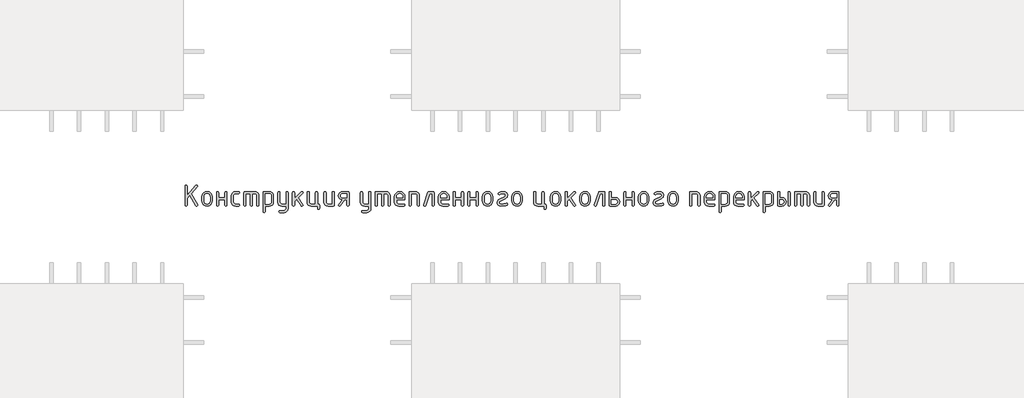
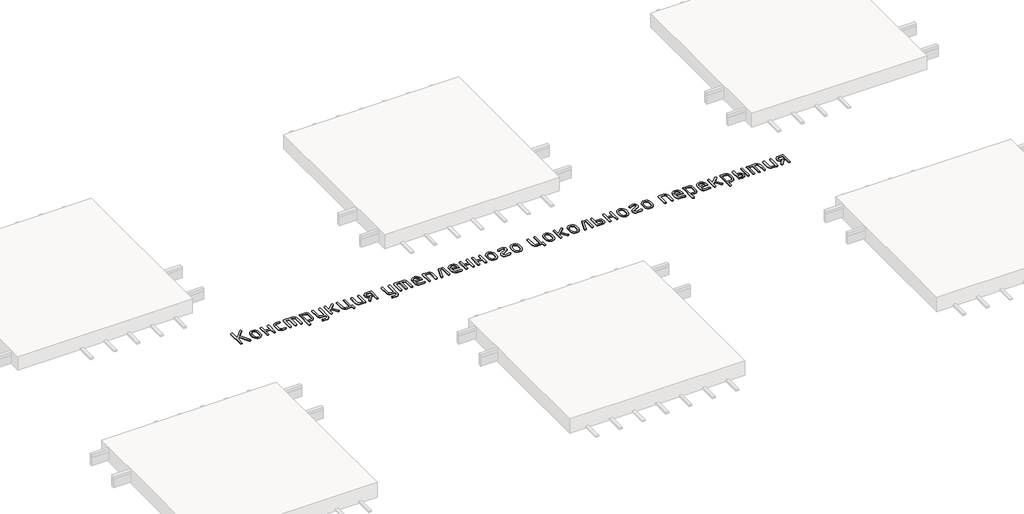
# One storey, part 41 of 42: 1 proxy.
"""IFC4 building model written with IfcOpenShell, lengths in millimetres."""

from ifc_helpers import new_model, si_unit, origin, origin_with_axes, place, context, project, spatial, polyline, outline, extrude, element, save

model = new_model("IFC4")

# Units and contexts
model_context = context("Model", 3, world=origin())
ifc_project = project(units=[si_unit("LENGTHUNIT", "METRE", prefix="MILLI")], contexts=[model_context])

# Site, building, storey
site = spatial("IfcSite", under=ifc_project)
building = spatial("IfcBuilding", under=site)
storey = spatial("IfcBuildingStorey", under=building, Name="Этаж 01", Elevation=0.0)

# Proxy
placement = place(None, origin())
element("IfcBuildingElementProxy", 1, Name="300 мм GOST Common", ObjectType="300 мм GOST Common", at=placement, inside=storey, context=model_context, shape_type="SweptSolid", body=[
    extrude(outline(polyline([(56113.6180624, -33149.8028226), (56074.3967756, -33193.2206257), (56074.3967756, -33293.8563142), (56070.5230683, -33305.2958562), (56058.9019463, -33309.1090368), (56047.2808243, -33305.2958562), (56043.4071169, -33293.8563142), (56043.4071169, -33019.6301156), (56047.2808243, -33008.1905736), (56058.9019463, -33004.377393), (56070.5230683, -33008.1905736), (56074.3967756, -33019.6301156), (56074.3967756, -33147.7045644), (56199.243135, -33009.4616338), (56210.7835548, -33004.377393), (56222.1020434, -33008.1905736), (56225.874873, -33019.6301156), (56221.7590589, -33030.0407041), (56135.2462617, -33125.8342584), (56223.8573171, -33286.270304), (56225.874873, -33293.8563142), (56221.1941433, -33304.387956), (56210.7835548, -33309.1090368), (56202.7940334, -33307.0914809), (56197.2255791, -33301.0388132), (56113.6180624, -33149.8028226)])), origin_with_axes(), (0.0, 0.0, 1.0), 10.0),
    extrude(outline(polyline([(56286.1594434, -33233.4910415), (56286.1594434, -33172.9643644), (56291.6371077, -33143.8913838), (56308.0701005, -33119.4587818), (56332.2706836, -33102.8744722), (56361.0511186, -33097.3463691), (56390.134187, -33102.8139456), (56414.2742434, -33119.2166751), (56430.5256562, -33143.5887504), (56435.9427938, -33172.9643644), (56435.9427938, -33233.4910415), (56430.4651295, -33262.5640221), (56414.0321367, -33286.9966241), (56389.8315536, -33303.5809337), (56361.0511186, -33309.1090368), (56332.2706836, -33303.5809337), (56308.0701005, -33286.9966241), (56291.6371077, -33262.5640221), (56286.1594434, -33233.4910415)]), holes=[polyline([(56404.9531351, -33232.6033169), (56404.9531351, -33171.9959375), (56401.7351334, -33154.5642545), (56392.0811284, -33139.8764475), (56377.8876226, -33129.8895458), (56361.0511186, -33126.5605786), (56344.2146146, -33129.8895458), (56330.0211088, -33139.8764475), (56320.3671038, -33154.5642545), (56317.1491021, -33171.9959375), (56317.1491021, -33232.6033169), (56320.3368404, -33250.1964044), (56329.9000554, -33264.8842114), (56344.0632979, -33274.8105865), (56361.0511186, -33278.1193781), (56377.8876226, -33274.7904109), (56392.0811284, -33264.8035092), (56401.7351334, -33250.0955266), (56404.9531351, -33232.6033169)])]), origin_with_axes(), (0.0, 0.0, 1.0), 10.0),
    extrude(outline(polyline([(56528.9117699, -33216.1400607), (56528.9117699, -33293.6142075), (56525.0380625, -33305.2353295), (56513.4169405, -33309.1090368), (56501.7958185, -33305.3362073), (56497.9221112, -33294.0177187), (56497.9221112, -33112.4376872), (56501.7958185, -33101.1191986), (56513.4169405, -33097.3463691), (56525.0380625, -33100.9981452), (56528.9117699, -33111.9534738), (56528.9117699, -33185.150402), (56616.7158029, -33185.150402), (56616.7158029, -33111.9534738), (56620.5895102, -33100.9981452), (56632.2106322, -33097.3463691), (56643.8317542, -33101.1191986), (56647.7054616, -33112.4376872), (56647.7054616, -33294.0177187), (56643.8317542, -33305.3362073), (56632.2106322, -33309.1090368), (56620.5895102, -33305.2353295), (56616.7158029, -33293.6142075), (56616.7158029, -33216.1400607), (56528.9117699, -33216.1400607)])), origin_with_axes(), (0.0, 0.0, 1.0), 10.0),
    extrude(outline(polyline([(56740.6744377, -33158.2765574), (56740.6744377, -33248.1788485), (56742.9139247, -33259.5881272), (56749.6323859, -33269.2824833), (56759.4377076, -33275.9101544), (56770.9377762, -33278.1193781), (56816.4538374, -33278.1193781), (56827.7723261, -33281.9930855), (56831.5451556, -33293.6142075), (56827.7723261, -33305.2353295), (56816.4538374, -33309.1090368), (56770.9377762, -33309.1090368), (56747.3928988, -33304.7309405), (56727.6006754, -33291.5966516), (56714.1637531, -33272.086886), (56709.684779, -33248.5823597), (56709.684779, -33157.8730462), (56714.1637531, -33134.3685199), (56727.6006754, -33114.8587543), (56747.3928988, -33101.7244654), (56770.9377762, -33097.3463691), (56816.4538374, -33097.3463691), (56827.7723261, -33101.2200764), (56831.5451556, -33112.8411984), (56827.7723261, -33124.4623204), (56816.4538374, -33128.3360278), (56770.9377762, -33128.3360278), (56759.2863909, -33130.5250759), (56749.5113325, -33137.0922204), (56742.8836614, -33146.766401), (56740.6744377, -33158.2765574)])), origin_with_axes(), (0.0, 0.0, 1.0), 10.0),
    extrude(outline(polyline([(56905.9526174, -33097.3463691), (57045.4060815, -33097.3463691), (57069.2939434, -33101.7547287), (57089.308098, -33114.9798077), (57102.8660737, -33134.5198366), (57107.3853989, -33157.8730462), (57107.3853989, -33294.0177187), (57103.5116916, -33305.3362073), (57091.8905696, -33309.1090368), (57080.2694476, -33305.3362073), (57076.3957402, -33294.0177187), (57076.3957402, -33158.4379619), (57074.166341, -33146.7058743), (57067.4781431, -33137.0115182), (57057.5013292, -33130.5049004), (57045.4060815, -33128.3360278), (57014.4164228, -33128.3360278), (57014.4164228, -33294.0177187), (57010.5427155, -33305.3362073), (56998.9215935, -33309.1090368), (56987.3004715, -33305.3362073), (56983.4267641, -33294.0177187), (56983.4267641, -33128.3360278), (56921.4474467, -33128.3360278), (56921.4474467, -33294.0177187), (56917.5737394, -33305.3362073), (56905.9526174, -33309.1090368), (56894.3314954, -33305.3362073), (56890.457788, -33294.0177187), (56890.457788, -33112.4376872), (56894.3314954, -33101.1191986), (56905.9526174, -33097.3463691)])), origin_with_axes(), (0.0, 0.0, 1.0), 10.0),
    extrude(outline(polyline([(57169.3647163, -33112.5990917), (57173.1173703, -33101.1595497), (57184.3753323, -33097.3463691), (57259.2670075, -33097.3463691), (57282.4890759, -33101.7244654), (57301.7970859, -33114.8587543), (57314.8103215, -33134.3685199), (57319.1480667, -33157.8730462), (57319.1480667, -33248.5823597), (57314.8405849, -33271.9355693), (57301.9181393, -33291.4755982), (57282.761446, -33304.7006772), (57259.7512209, -33309.1090368), (57200.354375, -33309.1090368), (57200.354375, -33386.5831836), (57196.4806677, -33398.2043056), (57184.8595457, -33402.0780129), (57173.2384237, -33398.2648323), (57169.3647163, -33386.8252903), (57169.3647163, -33112.5990917)]), holes=[polyline([(57200.354375, -33128.3360278), (57200.354375, -33278.1193781), (57258.8634963, -33278.1193781), (57270.1416338, -33275.93033), (57279.603971, -33269.3631855), (57286.0197988, -33259.6890049), (57288.158408, -33248.1788485), (57288.158408, -33158.2765574), (57286.0500621, -33146.6150843), (57279.7250243, -33136.971167), (57270.2929505, -33130.4948126), (57258.8634963, -33128.3360278), (57200.354375, -33128.3360278)])]), origin_with_axes(), (0.0, 0.0, 1.0), 10.0),
    extrude(outline(polyline([(57499.9210758, -33340.582909), (57499.9210758, -33309.1090368), (57440.5242299, -33309.1090368), (57417.5140049, -33304.7006772), (57398.3573115, -33291.4755982), (57385.434866, -33271.9355693), (57381.1273841, -33248.5823597), (57381.1273841, -33112.4376872), (57385.0010914, -33101.1191986), (57396.6222135, -33097.3463691), (57408.2433355, -33101.1191986), (57412.1170428, -33112.4376872), (57412.1170428, -33248.017444), (57414.2758276, -33259.4468982), (57420.7521821, -33269.201781), (57430.2346948, -33275.8899789), (57441.4119545, -33278.1193781), (57499.9210758, -33278.1193781), (57499.9210758, -33112.4376872), (57503.7947831, -33101.1191986), (57515.4159051, -33097.3463691), (57527.0370271, -33101.1595497), (57530.9107345, -33112.5990917), (57530.9107345, -33341.1478246), (57526.6637793, -33364.601912), (57513.9229138, -33384.2831699), (57494.9881516, -33397.6293022), (57472.1595065, -33402.0780129), (57412.1170428, -33402.0780129), (57400.7380275, -33398.2043056), (57396.9450224, -33386.5831836), (57401.5450499, -33375.7690839), (57412.1170428, -33371.0883542), (57470.626164, -33371.0883542), (57482.0556183, -33368.9194816), (57491.4876921, -33362.4128638), (57497.8127299, -33352.6176299), (57499.9210758, -33340.582909)])), origin_with_axes(), (0.0, 0.0, 1.0), 10.0),
    extrude(outline(polyline([(57623.8797106, -33196.7715241), (57719.1083493, -33101.7042898), (57729.9224489, -33097.3463691), (57741.3014642, -33101.1191986), (57745.0944693, -33112.4376872), (57740.4944419, -33123.0096802), (57673.915097, -33189.5083228), (57742.1084866, -33285.3018772), (57745.0944693, -33294.1791231), (57741.3014642, -33305.3765584), (57729.9224489, -33309.1090368), (57722.780301, -33307.4949921), (57717.3329001, -33302.6528579), (57652.1254933, -33211.0558199), (57623.8797106, -33239.3016025), (57623.8797106, -33293.9370164), (57620.0060032, -33305.3160317), (57608.3848812, -33309.1090368), (57596.7637592, -33305.3362073), (57592.8900519, -33294.0177187), (57592.8900519, -33112.4376872), (57596.7637592, -33101.1191986), (57608.3848812, -33097.3463691), (57620.0060032, -33101.1191986), (57623.8797106, -33112.4376872), (57623.8797106, -33196.7715241)])), origin_with_axes(), (0.0, 0.0, 1.0), 10.0),
    extrude(outline(polyline([(57969.9308994, -33278.1193781), (57981.5520214, -33281.9930855), (57985.4257287, -33293.6142075), (57985.4257287, -33340.0986955), (57981.5520214, -33351.7198175), (57969.9308994, -33355.5935249), (57958.3097774, -33351.7198175), (57954.43607, -33340.0986955), (57954.43607, -33309.1090368), (57864.5337789, -33309.1090368), (57841.3117105, -33304.7006772), (57822.0037004, -33291.4755982), (57808.9904649, -33271.9355693), (57804.6527197, -33248.5823597), (57804.6527197, -33112.4376872), (57808.526427, -33101.1191986), (57820.147549, -33097.3463691), (57831.768671, -33101.1191986), (57835.6423784, -33112.4376872), (57835.6423784, -33248.017444), (57837.8011632, -33259.4468982), (57844.2775176, -33269.201781), (57853.7600304, -33275.8899789), (57864.9372901, -33278.1193781), (57923.4464113, -33278.1193781), (57923.4464113, -33112.4376872), (57927.3201187, -33101.1191986), (57938.9412407, -33097.3463691), (57950.5623627, -33101.1191986), (57954.43607, -33112.4376872), (57954.43607, -33278.1193781), (57969.9308994, -33278.1193781)])), origin_with_axes(), (0.0, 0.0, 1.0), 10.0),
    extrude(outline(polyline([(58197.1883965, -33112.4376872), (58197.1883965, -33294.0177187), (58193.4357425, -33305.3362073), (58182.1777806, -33309.1090368), (58107.2861054, -33309.1090368), (58084.0640369, -33304.7309405), (58064.7560269, -33291.5966516), (58051.7427913, -33272.086886), (58047.4050461, -33248.5823597), (58047.4050461, -33112.4376872), (58051.2787535, -33101.1191986), (58062.8998755, -33097.3463691), (58074.5209975, -33101.1191986), (58078.3947048, -33112.4376872), (58078.3947048, -33248.017444), (58080.5534897, -33259.4468982), (58087.0298441, -33269.201781), (58096.5123569, -33275.8899789), (58107.6896166, -33278.1193781), (58166.1987378, -33278.1193781), (58166.1987378, -33112.4376872), (58170.0724452, -33101.1191986), (58181.6935672, -33097.3463691), (58193.3146892, -33101.1191986), (58197.1883965, -33112.4376872)])), origin_with_axes(), (0.0, 0.0, 1.0), 10.0),
    extrude(outline(polyline([(58310.7364428, -33217.9155099), (58289.360438, -33211.6106477), (58272.0397206, -33198.1838132), (58260.5699153, -33179.6122111), (58256.7466468, -33157.8730462), (58261.1449187, -33134.3685199), (58274.3397343, -33114.8587543), (58293.889851, -33101.7244654), (58317.3540262, -33097.3463691), (58393.4562349, -33097.3463691), (58405.077357, -33101.1191986), (58408.9510643, -33112.4376872), (58408.9510643, -33294.0177187), (58405.077357, -33305.3362073), (58393.4562349, -33309.1090368), (58381.8351129, -33305.3160317), (58377.9614056, -33293.9370164), (58377.9614056, -33218.2383189), (58347.2138536, -33218.2383189), (58284.1047049, -33302.8949647), (58278.7581817, -33307.5555188), (58271.9186672, -33309.1090368), (58260.5396519, -33305.3362073), (58256.7466468, -33294.0177187), (58259.7326296, -33284.8176637), (58310.7364428, -33217.9155099)]), holes=[polyline([(58287.0906876, -33158.6800686), (58289.3301747, -33170.1801372), (58296.0486359, -33179.9854589), (58305.8539576, -33186.7039201), (58317.3540262, -33188.9434071), (58377.9614056, -33188.9434071), (58377.9614056, -33128.3360278), (58317.3540262, -33128.3360278), (58305.7026409, -33130.5452515), (58295.9275825, -33137.1729226), (58289.2999114, -33146.9681565), (58287.0906876, -33158.6800686)])]), origin_with_axes(), (0.0, 0.0, 1.0), 10.0),
    extrude(outline(polyline([(58693.0229357, -33340.582909), (58693.0229357, -33309.1090368), (58633.6260899, -33309.1090368), (58610.6158648, -33304.7006772), (58591.4591714, -33291.4755982), (58578.5367259, -33271.9355693), (58574.229244, -33248.5823597), (58574.229244, -33112.4376872), (58578.1029514, -33101.1191986), (58589.7240734, -33097.3463691), (58601.3451954, -33101.1191986), (58605.2189027, -33112.4376872), (58605.2189027, -33248.017444), (58607.3776875, -33259.4468982), (58613.854042, -33269.201781), (58623.3365547, -33275.8899789), (58634.5138145, -33278.1193781), (58693.0229357, -33278.1193781), (58693.0229357, -33112.4376872), (58696.896643, -33101.1191986), (58708.517765, -33097.3463691), (58720.1388871, -33101.1595497), (58724.0125944, -33112.5990917), (58724.0125944, -33341.1478246), (58719.7656392, -33364.601912), (58707.0247737, -33384.2831699), (58688.0900115, -33397.6293022), (58665.2613664, -33402.0780129), (58605.2189027, -33402.0780129), (58593.8398874, -33398.2043056), (58590.0468823, -33386.5831836), (58594.6469098, -33375.7690839), (58605.2189027, -33371.0883542), (58663.728024, -33371.0883542), (58675.1574782, -33368.9194816), (58684.589552, -33362.4128638), (58690.9145898, -33352.6176299), (58693.0229357, -33340.582909)])), origin_with_axes(), (0.0, 0.0, 1.0), 10.0),
    extrude(outline(polyline([(58801.4867411, -33097.3463691), (58940.9402053, -33097.3463691), (58964.8280672, -33101.7547287), (58984.8422218, -33114.9798077), (58998.4001975, -33134.5198366), (59002.9195227, -33157.8730462), (59002.9195227, -33294.0177187), (58999.0458154, -33305.3362073), (58987.4246933, -33309.1090368), (58975.8035713, -33305.3362073), (58971.929864, -33294.0177187), (58971.929864, -33158.4379619), (58969.7004647, -33146.7058743), (58963.0122669, -33137.0115182), (58953.0354529, -33130.5049004), (58940.9402053, -33128.3360278), (58909.9505466, -33128.3360278), (58909.9505466, -33294.0177187), (58906.0768393, -33305.3362073), (58894.4557172, -33309.1090368), (58882.8345952, -33305.3362073), (58878.9608879, -33294.0177187), (58878.9608879, -33128.3360278), (58816.9815705, -33128.3360278), (58816.9815705, -33294.0177187), (58813.1078632, -33305.3362073), (58801.4867411, -33309.1090368), (58789.8656191, -33305.3362073), (58785.9919118, -33294.0177187), (58785.9919118, -33112.4376872), (58789.8656191, -33101.1191986), (58801.4867411, -33097.3463691)])), origin_with_axes(), (0.0, 0.0, 1.0), 10.0),
    extrude(outline(polyline([(59095.8884988, -33216.1400607), (59095.8884988, -33247.1297194), (59098.1279858, -33258.9223337), (59104.846447, -33268.9596743), (59114.6517687, -33275.8294522), (59126.1518374, -33278.1193781), (59201.9312371, -33278.1193781), (59213.3102525, -33281.9930855), (59217.1032576, -33293.6142075), (59213.3102525, -33305.2353295), (59201.9312371, -33309.1090368), (59126.1518374, -33309.1090368), (59102.6069599, -33304.7309405), (59082.8147365, -33291.5966516), (59069.3778142, -33272.086886), (59064.8988401, -33248.5823597), (59064.8988401, -33172.9643644), (59070.5177333, -33143.8913838), (59087.3744129, -33119.4587818), (59112.0995605, -33102.8744722), (59141.3238578, -33097.3463691), (59170.7700862, -33102.7130678), (59195.1926004, -33118.8131639), (59211.6255933, -33142.7413769), (59217.1032576, -33171.5924264), (59217.1032576, -33216.1400607), (59095.8884988, -33216.1400607)]), holes=[polyline([(59141.3238578, -33124.5430227), (59123.8921747, -33127.8719899), (59109.2043678, -33137.8588916), (59099.217466, -33152.5466986), (59095.8884988, -33169.9783816), (59095.8884988, -33185.150402), (59186.7592167, -33185.150402), (59186.7592167, -33169.9783816), (59183.4302495, -33152.5466986), (59173.4433478, -33137.8588916), (59158.7555408, -33127.8719899), (59141.3238578, -33124.5430227)])]), origin_with_axes(), (0.0, 0.0, 1.0), 10.0),
    extrude(outline(polyline([(59276.6615079, -33294.0177187), (59276.6615079, -33112.4376872), (59280.4141618, -33101.1191986), (59291.6721238, -33097.3463691), (59366.563799, -33097.3463691), (59389.6345508, -33101.7547287), (59408.9728241, -33114.9798077), (59422.0768497, -33134.5198366), (59426.4448582, -33157.8730462), (59426.4448582, -33294.0177187), (59422.5711509, -33305.3362073), (59410.9500289, -33309.1090368), (59399.3289069, -33305.3362073), (59395.4551995, -33294.0177187), (59395.4551995, -33158.4379619), (59393.3468536, -33146.7058743), (59387.0218159, -33137.0115182), (59377.589742, -33130.5049004), (59366.1602878, -33128.3360278), (59307.6511666, -33128.3360278), (59307.6511666, -33294.0177187), (59303.7774592, -33305.3362073), (59292.1563372, -33309.1090368), (59280.5352152, -33305.3362073), (59276.6615079, -33294.0177187)])), origin_with_axes(), (0.0, 0.0, 1.0), 10.0),
    extrude(outline(polyline([(59561.7825083, -33097.3463691), (59622.7126967, -33097.3463691), (59634.3338187, -33101.1191986), (59638.207526, -33112.4376872), (59638.207526, -33294.0177187), (59634.3338187, -33305.3362073), (59622.7126967, -33309.1090368), (59611.0915747, -33305.3362073), (59607.2178673, -33294.0177187), (59607.2178673, -33128.3360278), (59572.596608, -33128.3360278), (59515.4594248, -33298.8598528), (59510.1532527, -33306.5467408), (59501.175129, -33309.1090368), (59489.7961137, -33305.2756806), (59486.0031086, -33293.775612), (59486.7294287, -33289.1755845), (59546.6104879, -33109.6938112), (59552.5017512, -33100.4332296), (59561.7825083, -33097.3463691)])), origin_with_axes(), (0.0, 0.0, 1.0), 10.0),
    extrude(outline(polyline([(59731.1765021, -33216.1400607), (59731.1765021, -33247.1297194), (59733.4159892, -33258.9223337), (59740.1344503, -33268.9596743), (59749.939772, -33275.8294522), (59761.4398407, -33278.1193781), (59837.2192405, -33278.1193781), (59848.5982558, -33281.9930855), (59852.3912609, -33293.6142075), (59848.5982558, -33305.2353295), (59837.2192405, -33309.1090368), (59761.4398407, -33309.1090368), (59737.8949633, -33304.7309405), (59718.1027399, -33291.5966516), (59704.6658175, -33272.086886), (59700.1868434, -33248.5823597), (59700.1868434, -33172.9643644), (59705.8057366, -33143.8913838), (59722.6624162, -33119.4587818), (59747.3875638, -33102.8744722), (59776.6118611, -33097.3463691), (59806.0580895, -33102.7130678), (59830.4806038, -33118.8131639), (59846.9135966, -33142.7413769), (59852.3912609, -33171.5924264), (59852.3912609, -33216.1400607), (59731.1765021, -33216.1400607)]), holes=[polyline([(59776.6118611, -33124.5430227), (59759.1801781, -33127.8719899), (59744.4923711, -33137.8588916), (59734.5054694, -33152.5466986), (59731.1765021, -33169.9783816), (59731.1765021, -33185.150402), (59822.0472201, -33185.150402), (59822.0472201, -33169.9783816), (59818.7182528, -33152.5466986), (59808.7313511, -33137.8588916), (59794.0435441, -33127.8719899), (59776.6118611, -33124.5430227)])]), origin_with_axes(), (0.0, 0.0, 1.0), 10.0),
    extrude(outline(polyline([(59942.9391699, -33216.1400607), (59942.9391699, -33293.6142075), (59939.0654626, -33305.2353295), (59927.4443405, -33309.1090368), (59915.8232185, -33305.3362073), (59911.9495112, -33294.0177187), (59911.9495112, -33112.4376872), (59915.8232185, -33101.1191986), (59927.4443405, -33097.3463691), (59939.0654626, -33100.9981452), (59942.9391699, -33111.9534738), (59942.9391699, -33185.150402), (60030.7432029, -33185.150402), (60030.7432029, -33111.9534738), (60034.6169102, -33100.9981452), (60046.2380322, -33097.3463691), (60057.8591542, -33101.1191986), (60061.7328616, -33112.4376872), (60061.7328616, -33294.0177187), (60057.8591542, -33305.3362073), (60046.2380322, -33309.1090368), (60034.6169102, -33305.2353295), (60030.7432029, -33293.6142075), (60030.7432029, -33216.1400607), (59942.9391699, -33216.1400607)])), origin_with_axes(), (0.0, 0.0, 1.0), 10.0),
    extrude(outline(polyline([(60154.7018377, -33216.1400607), (60154.7018377, -33293.6142075), (60150.8281303, -33305.2353295), (60139.2070083, -33309.1090368), (60127.5858863, -33305.3362073), (60123.712179, -33294.0177187), (60123.712179, -33112.4376872), (60127.5858863, -33101.1191986), (60139.2070083, -33097.3463691), (60150.8281303, -33100.9981452), (60154.7018377, -33111.9534738), (60154.7018377, -33185.150402), (60242.5058706, -33185.150402), (60242.5058706, -33111.9534738), (60246.379578, -33100.9981452), (60258.0007, -33097.3463691), (60269.621822, -33101.1191986), (60273.4955293, -33112.4376872), (60273.4955293, -33294.0177187), (60269.621822, -33305.3362073), (60258.0007, -33309.1090368), (60246.379578, -33305.2353295), (60242.5058706, -33293.6142075), (60242.5058706, -33216.1400607), (60154.7018377, -33216.1400607)])), origin_with_axes(), (0.0, 0.0, 1.0), 10.0),
    extrude(outline(polyline([(60335.4748467, -33233.4910415), (60335.4748467, -33172.9643644), (60340.952511, -33143.8913838), (60357.3855039, -33119.4587818), (60381.586087, -33102.8744722), (60410.3665219, -33097.3463691), (60439.4495903, -33102.8139456), (60463.5896467, -33119.2166751), (60479.8410595, -33143.5887504), (60485.2581971, -33172.9643644), (60485.2581971, -33233.4910415), (60479.7805328, -33262.5640221), (60463.34754, -33286.9966241), (60439.1469569, -33303.5809337), (60410.3665219, -33309.1090368), (60381.586087, -33303.5809337), (60357.3855039, -33286.9966241), (60340.952511, -33262.5640221), (60335.4748467, -33233.4910415)]), holes=[polyline([(60454.2685384, -33232.6033169), (60454.2685384, -33171.9959375), (60451.0505368, -33154.5642545), (60441.3965318, -33139.8764475), (60427.203026, -33129.8895458), (60410.3665219, -33126.5605786), (60393.5300179, -33129.8895458), (60379.3365121, -33139.8764475), (60369.6825071, -33154.5642545), (60366.4645054, -33171.9959375), (60366.4645054, -33232.6033169), (60369.6522438, -33250.1964044), (60379.2154588, -33264.8842114), (60393.3787012, -33274.8105865), (60410.3665219, -33278.1193781), (60427.203026, -33274.7904109), (60441.3965318, -33264.8035092), (60451.0505368, -33250.0955266), (60454.2685384, -33232.6033169)])]), origin_with_axes(), (0.0, 0.0, 1.0), 10.0),
    extrude(outline(polyline([(60682.8979736, -33262.9473577), (60694.2769889, -33266.7403628), (60698.069994, -33278.1193781), (60695.9515603, -33286.0685484), (60689.5962592, -33292.0001628), (60673.0169935, -33299.4852952), (60652.4934061, -33304.8318183), (60599.6132658, -33309.1090368), (60579.1552489, -33305.2555051), (60562.0060237, -33293.6949097), (60550.3849017, -33276.6667379), (60546.5111944, -33256.4104766), (60548.4076969, -33241.0215689), (60554.0972046, -33227.9427628), (60563.5797174, -33217.1740581), (60576.8552352, -33208.715455), (60655.378511, -33171.0275107), (60664.6390926, -33163.0178138), (60667.7259532, -33150.9326539), (60666.0614695, -33142.2571635), (60661.0680187, -33134.9536111), (60653.734203, -33129.9904236), (60645.0486248, -33128.3360278), (60606.7150626, -33131.5641172), (60583.957032, -33141.6518967), (60576.8552352, -33143.5080482), (60566.2832423, -33138.9080207), (60561.6832148, -33128.3360278), (60563.7007707, -33120.6894909), (60569.7534384, -33114.6973498), (60601.893104, -33101.6841143), (60645.0486248, -33097.3463691), (60665.446115, -33101.1999008), (60682.5751646, -33112.7604962), (60694.1962866, -33129.788668), (60698.069994, -33150.0449293), (60696.1583598, -33165.433837), (60690.4234571, -33178.5126431), (60680.865286, -33189.2813478), (60667.4838465, -33197.7399509), (60589.6868908, -33234.9436818), (60580.0631491, -33243.1954854), (60576.8552352, -33255.522752), (60578.5197188, -33264.1982424), (60583.5131697, -33271.5017948), (60590.867161, -33276.4649823), (60599.6132658, -33278.1193781), (60641.1547419, -33274.6088309), (60677.1681148, -33264.077189), (60682.8979736, -33262.9473577)])), origin_with_axes(), (0.0, 0.0, 1.0), 10.0),
    extrude(outline(polyline([(60759.0001823, -33233.4910415), (60759.0001823, -33172.9643644), (60764.4778466, -33143.8913838), (60780.9108394, -33119.4587818), (60805.1114225, -33102.8744722), (60833.8918575, -33097.3463691), (60862.9749259, -33102.8139456), (60887.1149823, -33119.2166751), (60903.3663951, -33143.5887504), (60908.7835327, -33172.9643644), (60908.7835327, -33233.4910415), (60903.3058684, -33262.5640221), (60886.8728756, -33286.9966241), (60862.6722925, -33303.5809337), (60833.8918575, -33309.1090368), (60805.1114225, -33303.5809337), (60780.9108394, -33286.9966241), (60764.4778466, -33262.5640221), (60759.0001823, -33233.4910415)]), holes=[polyline([(60877.793874, -33232.6033169), (60877.793874, -33171.9959375), (60874.5758723, -33154.5642545), (60864.9218673, -33139.8764475), (60850.7283615, -33129.8895458), (60833.8918575, -33126.5605786), (60817.0553535, -33129.8895458), (60802.8618477, -33139.8764475), (60793.2078427, -33154.5642545), (60789.989841, -33171.9959375), (60789.989841, -33232.6033169), (60793.1775793, -33250.1964044), (60802.7407943, -33264.8842114), (60816.9040368, -33274.8105865), (60833.8918575, -33278.1193781), (60850.7283615, -33274.7904109), (60864.9218673, -33264.8035092), (60874.5758723, -33250.0955266), (60877.793874, -33232.6033169)])]), origin_with_axes(), (0.0, 0.0, 1.0), 10.0),
    extrude(outline(polyline([(61239.3398921, -33278.1193781), (61250.9610141, -33281.9930855), (61254.8347215, -33293.6142075), (61254.8347215, -33340.0986955), (61250.9610141, -33351.7198175), (61239.3398921, -33355.5935249), (61227.7187701, -33351.7198175), (61223.8450628, -33340.0986955), (61223.8450628, -33309.1090368), (61133.9427717, -33309.1090368), (61110.7207032, -33304.7006772), (61091.4126932, -33291.4755982), (61078.3994576, -33271.9355693), (61074.0617124, -33248.5823597), (61074.0617124, -33112.4376872), (61077.9354197, -33101.1191986), (61089.5565418, -33097.3463691), (61101.1776638, -33101.1191986), (61105.0513711, -33112.4376872), (61105.0513711, -33248.017444), (61107.2101559, -33259.4468982), (61113.6865104, -33269.201781), (61123.1690231, -33275.8899789), (61134.3462828, -33278.1193781), (61192.8554041, -33278.1193781), (61192.8554041, -33112.4376872), (61196.7291114, -33101.1191986), (61208.3502334, -33097.3463691), (61219.9713554, -33101.1191986), (61223.8450628, -33112.4376872), (61223.8450628, -33278.1193781), (61239.3398921, -33278.1193781)])), origin_with_axes(), (0.0, 0.0, 1.0), 10.0),
    extrude(outline(polyline([(61316.8140389, -33233.4910415), (61316.8140389, -33172.9643644), (61322.2917032, -33143.8913838), (61338.724696, -33119.4587818), (61362.9252791, -33102.8744722), (61391.7057141, -33097.3463691), (61420.7887824, -33102.8139456), (61444.9288388, -33119.2166751), (61461.1802517, -33143.5887504), (61466.5973893, -33172.9643644), (61466.5973893, -33233.4910415), (61461.119725, -33262.5640221), (61444.6867321, -33286.9966241), (61420.4861491, -33303.5809337), (61391.7057141, -33309.1090368), (61362.9252791, -33303.5809337), (61338.724696, -33286.9966241), (61322.2917032, -33262.5640221), (61316.8140389, -33233.4910415)]), holes=[polyline([(61435.6077306, -33232.6033169), (61435.6077306, -33171.9959375), (61432.3897289, -33154.5642545), (61422.7357239, -33139.8764475), (61408.5422181, -33129.8895458), (61391.7057141, -33126.5605786), (61374.86921, -33129.8895458), (61360.6757043, -33139.8764475), (61351.0216992, -33154.5642545), (61347.8036976, -33171.9959375), (61347.8036976, -33232.6033169), (61350.9914359, -33250.1964044), (61360.5546509, -33264.8842114), (61374.7178934, -33274.8105865), (61391.7057141, -33278.1193781), (61408.5422181, -33274.7904109), (61422.7357239, -33264.8035092), (61432.3897289, -33250.0955266), (61435.6077306, -33232.6033169)])]), origin_with_axes(), (0.0, 0.0, 1.0), 10.0),
    extrude(outline(polyline([(61559.5663654, -33196.7715241), (61654.7950041, -33101.7042898), (61665.6091037, -33097.3463691), (61676.988119, -33101.1191986), (61680.7811241, -33112.4376872), (61676.1810967, -33123.0096802), (61609.6017518, -33189.5083228), (61677.7951414, -33285.3018772), (61680.7811241, -33294.1791231), (61676.988119, -33305.3765584), (61665.6091037, -33309.1090368), (61658.4669558, -33307.4949921), (61653.0195549, -33302.6528579), (61587.812148, -33211.0558199), (61559.5663654, -33239.3016025), (61559.5663654, -33293.9370164), (61555.692658, -33305.3160317), (61544.071536, -33309.1090368), (61532.450414, -33305.3362073), (61528.5767067, -33294.0177187), (61528.5767067, -33112.4376872), (61532.450414, -33101.1191986), (61544.071536, -33097.3463691), (61555.692658, -33101.1191986), (61559.5663654, -33112.4376872), (61559.5663654, -33196.7715241)])), origin_with_axes(), (0.0, 0.0, 1.0), 10.0),
    extrude(outline(polyline([(61740.3393744, -33233.4910415), (61740.3393744, -33172.9643644), (61745.8170387, -33143.8913838), (61762.2500316, -33119.4587818), (61786.4506146, -33102.8744722), (61815.2310496, -33097.3463691), (61844.314118, -33102.8139456), (61868.4541744, -33119.2166751), (61884.7055872, -33143.5887504), (61890.1227248, -33172.9643644), (61890.1227248, -33233.4910415), (61884.6450605, -33262.5640221), (61868.2120677, -33286.9966241), (61844.0114846, -33303.5809337), (61815.2310496, -33309.1090368), (61786.4506146, -33303.5809337), (61762.2500316, -33286.9966241), (61745.8170387, -33262.5640221), (61740.3393744, -33233.4910415)]), holes=[polyline([(61859.1330661, -33232.6033169), (61859.1330661, -33171.9959375), (61855.9150644, -33154.5642545), (61846.2610594, -33139.8764475), (61832.0675536, -33129.8895458), (61815.2310496, -33126.5605786), (61798.3945456, -33129.8895458), (61784.2010398, -33139.8764475), (61774.5470348, -33154.5642545), (61771.3290331, -33171.9959375), (61771.3290331, -33232.6033169), (61774.5167715, -33250.1964044), (61784.0799865, -33264.8842114), (61798.2432289, -33274.8105865), (61815.2310496, -33278.1193781), (61832.0675536, -33274.7904109), (61846.2610594, -33264.8035092), (61855.9150644, -33250.0955266), (61859.1330661, -33232.6033169)])]), origin_with_axes(), (0.0, 0.0, 1.0), 10.0),
    extrude(outline(polyline([(62025.4603749, -33097.3463691), (62086.3905632, -33097.3463691), (62098.0116853, -33101.1191986), (62101.8853926, -33112.4376872), (62101.8853926, -33294.0177187), (62098.0116853, -33305.3362073), (62086.3905632, -33309.1090368), (62074.7694412, -33305.3362073), (62070.8957339, -33294.0177187), (62070.8957339, -33128.3360278), (62036.2744746, -33128.3360278), (61979.1372913, -33298.8598528), (61973.8311193, -33306.5467408), (61964.8529955, -33309.1090368), (61953.4739802, -33305.2756806), (61949.6809751, -33293.775612), (61950.4072953, -33289.1755845), (62010.2883545, -33109.6938112), (62016.1796178, -33100.4332296), (62025.4603749, -33097.3463691)])), origin_with_axes(), (0.0, 0.0, 1.0), 10.0),
    extrude(outline(polyline([(62316.0691275, -33247.1297194), (62311.6809434, -33271.168898), (62298.5163911, -33291.1527893), (62278.9763621, -33304.6199749), (62255.4617481, -33309.1090368), (62179.3595393, -33309.1090368), (62167.7384173, -33305.3362073), (62163.86471, -33294.0177187), (62163.86471, -33112.4376872), (62167.7384173, -33101.1191986), (62179.3595393, -33097.3463691), (62190.9806613, -33100.9981452), (62194.8543687, -33111.9534738), (62194.8543687, -33185.150402), (62255.4617481, -33185.150402), (62278.9763621, -33189.6697273), (62298.5163911, -33203.2277029), (62311.6809434, -33223.2418575), (62316.0691275, -33247.1297194)]), holes=[polyline([(62285.7250866, -33247.1297194), (62283.5461263, -33235.0344718), (62277.0092451, -33225.0576578), (62267.2644501, -33218.36946), (62255.4617481, -33216.1400607), (62194.8543687, -33216.1400607), (62194.8543687, -33278.1193781), (62255.4617481, -33278.1193781), (62267.1131334, -33275.8597155), (62276.8881918, -33269.0807277), (62283.5158629, -33259.0736504), (62285.7250866, -33247.1297194)])]), origin_with_axes(), (0.0, 0.0, 1.0), 10.0),
    extrude(outline(polyline([(62406.6170365, -33216.1400607), (62406.6170365, -33293.6142075), (62402.7433291, -33305.2353295), (62391.1222071, -33309.1090368), (62379.5010851, -33305.3362073), (62375.6273778, -33294.0177187), (62375.6273778, -33112.4376872), (62379.5010851, -33101.1191986), (62391.1222071, -33097.3463691), (62402.7433291, -33100.9981452), (62406.6170365, -33111.9534738), (62406.6170365, -33185.150402), (62494.4210694, -33185.150402), (62494.4210694, -33111.9534738), (62498.2947768, -33100.9981452), (62509.9158988, -33097.3463691), (62521.5370208, -33101.1191986), (62525.4107281, -33112.4376872), (62525.4107281, -33294.0177187), (62521.5370208, -33305.3362073), (62509.9158988, -33309.1090368), (62498.2947768, -33305.2353295), (62494.4210694, -33293.6142075), (62494.4210694, -33216.1400607), (62406.6170365, -33216.1400607)])), origin_with_axes(), (0.0, 0.0, 1.0), 10.0),
    extrude(outline(polyline([(62587.3900455, -33233.4910415), (62587.3900455, -33172.9643644), (62592.8677098, -33143.8913838), (62609.3007027, -33119.4587818), (62633.5012857, -33102.8744722), (62662.2817207, -33097.3463691), (62691.3647891, -33102.8139456), (62715.5048455, -33119.2166751), (62731.7562583, -33143.5887504), (62737.1733959, -33172.9643644), (62737.1733959, -33233.4910415), (62731.6957316, -33262.5640221), (62715.2627388, -33286.9966241), (62691.0621557, -33303.5809337), (62662.2817207, -33309.1090368), (62633.5012857, -33303.5809337), (62609.3007027, -33286.9966241), (62592.8677098, -33262.5640221), (62587.3900455, -33233.4910415)]), holes=[polyline([(62706.1837372, -33232.6033169), (62706.1837372, -33171.9959375), (62702.9657356, -33154.5642545), (62693.3117305, -33139.8764475), (62679.1182248, -33129.8895458), (62662.2817207, -33126.5605786), (62645.4452167, -33129.8895458), (62631.2517109, -33139.8764475), (62621.5977059, -33154.5642545), (62618.3797042, -33171.9959375), (62618.3797042, -33232.6033169), (62621.5674426, -33250.1964044), (62631.1306576, -33264.8842114), (62645.2939, -33274.8105865), (62662.2817207, -33278.1193781), (62679.1182248, -33274.7904109), (62693.3117305, -33264.8035092), (62702.9657356, -33250.0955266), (62706.1837372, -33232.6033169)])]), origin_with_axes(), (0.0, 0.0, 1.0), 10.0),
    extrude(outline(polyline([(62934.8131724, -33262.9473577), (62946.1921877, -33266.7403628), (62949.9851928, -33278.1193781), (62947.8667591, -33286.0685484), (62941.511458, -33292.0001628), (62924.9321923, -33299.4852952), (62904.4086049, -33304.8318183), (62851.5284646, -33309.1090368), (62831.0704477, -33305.2555051), (62813.9212225, -33293.6949097), (62802.3001005, -33276.6667379), (62798.4263932, -33256.4104766), (62800.3228957, -33241.0215689), (62806.0124034, -33227.9427628), (62815.4949161, -33217.1740581), (62828.770434, -33208.715455), (62907.2937098, -33171.0275107), (62916.5542914, -33163.0178138), (62919.641152, -33150.9326539), (62917.9766683, -33142.2571635), (62912.9832175, -33134.9536111), (62905.6494018, -33129.9904236), (62896.9638236, -33128.3360278), (62858.6302614, -33131.5641172), (62835.8722308, -33141.6518967), (62828.770434, -33143.5080482), (62818.1984411, -33138.9080207), (62813.5984136, -33128.3360278), (62815.6159695, -33120.6894909), (62821.6686372, -33114.6973498), (62853.8083028, -33101.6841143), (62896.9638236, -33097.3463691), (62917.3613138, -33101.1999008), (62934.4903634, -33112.7604962), (62946.1114854, -33129.788668), (62949.9851928, -33150.0449293), (62948.0735585, -33165.433837), (62942.3386559, -33178.5126431), (62932.7804848, -33189.2813478), (62919.3990452, -33197.7399509), (62841.6020896, -33234.9436818), (62831.9783479, -33243.1954854), (62828.770434, -33255.522752), (62830.4349176, -33264.1982424), (62835.4283685, -33271.5017948), (62842.7823598, -33276.4649823), (62851.5284646, -33278.1193781), (62893.0699407, -33274.6088309), (62929.0833136, -33264.077189), (62934.8131724, -33262.9473577)])), origin_with_axes(), (0.0, 0.0, 1.0), 10.0),
    extrude(outline(polyline([(63010.9153811, -33233.4910415), (63010.9153811, -33172.9643644), (63016.3930454, -33143.8913838), (63032.8260382, -33119.4587818), (63057.0266213, -33102.8744722), (63085.8070563, -33097.3463691), (63114.8901247, -33102.8139456), (63139.0301811, -33119.2166751), (63155.2815939, -33143.5887504), (63160.6987315, -33172.9643644), (63160.6987315, -33233.4910415), (63155.2210672, -33262.5640221), (63138.7880743, -33286.9966241), (63114.5874913, -33303.5809337), (63085.8070563, -33309.1090368), (63057.0266213, -33303.5809337), (63032.8260382, -33286.9966241), (63016.3930454, -33262.5640221), (63010.9153811, -33233.4910415)]), holes=[polyline([(63129.7090728, -33232.6033169), (63129.7090728, -33171.9959375), (63126.4910711, -33154.5642545), (63116.8370661, -33139.8764475), (63102.6435603, -33129.8895458), (63085.8070563, -33126.5605786), (63068.9705523, -33129.8895458), (63054.7770465, -33139.8764475), (63045.1230415, -33154.5642545), (63041.9050398, -33171.9959375), (63041.9050398, -33232.6033169), (63045.0927781, -33250.1964044), (63054.6559931, -33264.8842114), (63068.8192356, -33274.8105865), (63085.8070563, -33278.1193781), (63102.6435603, -33274.7904109), (63116.8370661, -33264.8035092), (63126.4910711, -33250.0955266), (63129.7090728, -33232.6033169)])]), origin_with_axes(), (0.0, 0.0, 1.0), 10.0),
    extrude(outline(polyline([(63325.9769112, -33294.0177187), (63325.9769112, -33112.4376872), (63329.7295652, -33101.1191986), (63340.9875271, -33097.3463691), (63415.8792023, -33097.3463691), (63438.9499541, -33101.7547287), (63458.2882274, -33114.9798077), (63471.392253, -33134.5198366), (63475.7602616, -33157.8730462), (63475.7602616, -33294.0177187), (63471.8865542, -33305.3362073), (63460.2654322, -33309.1090368), (63448.6443102, -33305.3362073), (63444.7706029, -33294.0177187), (63444.7706029, -33158.4379619), (63442.662257, -33146.7058743), (63436.3372192, -33137.0115182), (63426.9051453, -33130.5049004), (63415.4756911, -33128.3360278), (63356.9665699, -33128.3360278), (63356.9665699, -33294.0177187), (63353.0928626, -33305.3362073), (63341.4717405, -33309.1090368), (63329.8506185, -33305.3362073), (63325.9769112, -33294.0177187)])), origin_with_axes(), (0.0, 0.0, 1.0), 10.0),
    extrude(outline(polyline([(63568.7292377, -33216.1400607), (63568.7292377, -33247.1297194), (63570.9687247, -33258.9223337), (63577.6871859, -33268.9596743), (63587.4925076, -33275.8294522), (63598.9925762, -33278.1193781), (63674.771976, -33278.1193781), (63686.1509913, -33281.9930855), (63689.9439964, -33293.6142075), (63686.1509913, -33305.2353295), (63674.771976, -33309.1090368), (63598.9925762, -33309.1090368), (63575.4476988, -33304.7309405), (63555.6554754, -33291.5966516), (63542.2185531, -33272.086886), (63537.739579, -33248.5823597), (63537.739579, -33172.9643644), (63543.3584722, -33143.8913838), (63560.2151518, -33119.4587818), (63584.9402994, -33102.8744722), (63614.1645967, -33097.3463691), (63643.6108251, -33102.7130678), (63668.0333393, -33118.8131639), (63684.4663322, -33142.7413769), (63689.9439964, -33171.5924264), (63689.9439964, -33216.1400607), (63568.7292377, -33216.1400607)]), holes=[polyline([(63614.1645967, -33124.5430227), (63596.7329136, -33127.8719899), (63582.0451066, -33137.8588916), (63572.0582049, -33152.5466986), (63568.7292377, -33169.9783816), (63568.7292377, -33185.150402), (63659.5999556, -33185.150402), (63659.5999556, -33169.9783816), (63656.2709884, -33152.5466986), (63646.2840867, -33137.8588916), (63631.5962797, -33127.8719899), (63614.1645967, -33124.5430227)])]), origin_with_axes(), (0.0, 0.0, 1.0), 10.0),
    extrude(outline(polyline([(63749.5022468, -33112.5990917), (63753.2549007, -33101.1595497), (63764.5128627, -33097.3463691), (63839.4045379, -33097.3463691), (63862.6266063, -33101.7244654), (63881.9346163, -33114.8587543), (63894.9478519, -33134.3685199), (63899.2855971, -33157.8730462), (63899.2855971, -33248.5823597), (63894.9781153, -33271.9355693), (63882.0556697, -33291.4755982), (63862.8989764, -33304.7006772), (63839.8887513, -33309.1090368), (63780.4919055, -33309.1090368), (63780.4919055, -33386.5831836), (63776.6181981, -33398.2043056), (63764.9970761, -33402.0780129), (63753.3759541, -33398.2648323), (63749.5022468, -33386.8252903), (63749.5022468, -33112.5990917)]), holes=[polyline([(63780.4919055, -33128.3360278), (63780.4919055, -33278.1193781), (63839.0010267, -33278.1193781), (63850.2791642, -33275.93033), (63859.7415014, -33269.3631855), (63866.1573292, -33259.6890049), (63868.2959384, -33248.1788485), (63868.2959384, -33158.2765574), (63866.1875925, -33146.6150843), (63859.8625548, -33136.971167), (63850.4304809, -33130.4948126), (63839.0010267, -33128.3360278), (63780.4919055, -33128.3360278)])]), origin_with_axes(), (0.0, 0.0, 1.0), 10.0),
    extrude(outline(polyline([(63992.2545732, -33216.1400607), (63992.2545732, -33247.1297194), (63994.4940603, -33258.9223337), (64001.2125214, -33268.9596743), (64011.0178431, -33275.8294522), (64022.5179118, -33278.1193781), (64098.2973116, -33278.1193781), (64109.6763269, -33281.9930855), (64113.469332, -33293.6142075), (64109.6763269, -33305.2353295), (64098.2973116, -33309.1090368), (64022.5179118, -33309.1090368), (63998.9730344, -33304.7309405), (63979.180811, -33291.5966516), (63965.7438886, -33272.086886), (63961.2649145, -33248.5823597), (63961.2649145, -33172.9643644), (63966.8838077, -33143.8913838), (63983.7404873, -33119.4587818), (64008.4656349, -33102.8744722), (64037.6899322, -33097.3463691), (64067.1361606, -33102.7130678), (64091.5586749, -33118.8131639), (64107.9916677, -33142.7413769), (64113.469332, -33171.5924264), (64113.469332, -33216.1400607), (63992.2545732, -33216.1400607)]), holes=[polyline([(64037.6899322, -33124.5430227), (64020.2582492, -33127.8719899), (64005.5704422, -33137.8588916), (63995.5835405, -33152.5466986), (63992.2545732, -33169.9783816), (63992.2545732, -33185.150402), (64083.1252912, -33185.150402), (64083.1252912, -33169.9783816), (64079.7963239, -33152.5466986), (64069.8094222, -33137.8588916), (64055.1216152, -33127.8719899), (64037.6899322, -33124.5430227)])]), origin_with_axes(), (0.0, 0.0, 1.0), 10.0),
    extrude(outline(polyline([(64204.017241, -33196.7715241), (64299.2458797, -33101.7042898), (64310.0599794, -33097.3463691), (64321.4389947, -33101.1191986), (64325.2319998, -33112.4376872), (64320.6319723, -33123.0096802), (64254.0526274, -33189.5083228), (64322.246017, -33285.3018772), (64325.2319998, -33294.1791231), (64321.4389947, -33305.3765584), (64310.0599794, -33309.1090368), (64302.9178315, -33307.4949921), (64297.4704305, -33302.6528579), (64232.2630237, -33211.0558199), (64204.017241, -33239.3016025), (64204.017241, -33293.9370164), (64200.1435337, -33305.3160317), (64188.5224117, -33309.1090368), (64176.9012896, -33305.3362073), (64173.0275823, -33294.0177187), (64173.0275823, -33112.4376872), (64176.9012896, -33101.1191986), (64188.5224117, -33097.3463691), (64200.1435337, -33101.1191986), (64204.017241, -33112.4376872), (64204.017241, -33196.7715241)])), origin_with_axes(), (0.0, 0.0, 1.0), 10.0),
    extrude(outline(polyline([(64384.7902501, -33112.5990917), (64388.5429041, -33101.1595497), (64399.800866, -33097.3463691), (64474.6925412, -33097.3463691), (64497.9146097, -33101.7244654), (64517.2226197, -33114.8587543), (64530.2358553, -33134.3685199), (64534.5736005, -33157.8730462), (64534.5736005, -33248.5823597), (64530.2661186, -33271.9355693), (64517.343673, -33291.4755982), (64498.1869797, -33304.7006772), (64475.1767546, -33309.1090368), (64415.7799088, -33309.1090368), (64415.7799088, -33386.5831836), (64411.9062014, -33398.2043056), (64400.2850794, -33402.0780129), (64388.6639574, -33398.2648323), (64384.7902501, -33386.8252903), (64384.7902501, -33112.5990917)]), holes=[polyline([(64415.7799088, -33128.3360278), (64415.7799088, -33278.1193781), (64474.28903, -33278.1193781), (64485.5671675, -33275.93033), (64495.0295047, -33269.3631855), (64501.4453325, -33259.6890049), (64503.5839418, -33248.1788485), (64503.5839418, -33158.2765574), (64501.4755958, -33146.6150843), (64495.1505581, -33136.971167), (64485.7184842, -33130.4948126), (64474.28903, -33128.3360278), (64415.7799088, -33128.3360278)])]), origin_with_axes(), (0.0, 0.0, 1.0), 10.0),
    extrude(outline(polyline([(64718.4132945, -33247.1297194), (64714.0251104, -33271.168898), (64700.8605581, -33291.1527893), (64681.3205292, -33304.6199749), (64657.8059151, -33309.1090368), (64612.0477472, -33309.1090368), (64600.4266252, -33305.3362073), (64596.5529179, -33294.0177187), (64596.5529179, -33112.4376872), (64600.4266252, -33101.1191986), (64612.0477472, -33097.3463691), (64623.6688692, -33100.9981452), (64627.5425766, -33111.9534738), (64627.5425766, -33185.150402), (64657.8059151, -33185.150402), (64681.3205292, -33189.6394639), (64700.8605581, -33203.1066496), (64714.0251104, -33223.0905408), (64718.4132945, -33247.1297194)]), holes=[polyline([(64688.1499559, -33247.1297194), (64685.9709956, -33235.0344718), (64679.4341144, -33225.0576578), (64669.6691439, -33218.36946), (64657.8059151, -33216.1400607), (64627.5425766, -33216.1400607), (64627.5425766, -33278.1193781), (64657.8059151, -33278.1193781), (64669.5178272, -33275.8597155), (64679.3130611, -33269.0807277), (64685.9407322, -33259.0736504), (64688.1499559, -33247.1297194)])]), origin_with_axes(), (0.0, 0.0, 1.0), 10.0),
    extrude(outline(polyline([(64746.3362682, -33112.4376872), (64750.2099756, -33101.1191986), (64761.8310976, -33097.3463691), (64773.4522196, -33101.1191986), (64777.3259269, -33112.4376872), (64777.3259269, -33294.0177187), (64773.4522196, -33305.3362073), (64761.8310976, -33309.1090368), (64750.2099756, -33305.3362073), (64746.3362682, -33294.0177187), (64746.3362682, -33112.4376872)])), origin_with_axes(), (0.0, 0.0, 1.0), 10.0),
    extrude(outline(polyline([(64854.8000737, -33097.3463691), (64994.2535378, -33097.3463691), (65018.1413997, -33101.7547287), (65038.1555543, -33114.9798077), (65051.71353, -33134.5198366), (65056.2328552, -33157.8730462), (65056.2328552, -33294.0177187), (65052.3591479, -33305.3362073), (65040.7380259, -33309.1090368), (65029.1169039, -33305.3362073), (65025.2431965, -33294.0177187), (65025.2431965, -33158.4379619), (65023.0137973, -33146.7058743), (65016.3255994, -33137.0115182), (65006.3487855, -33130.5049004), (64994.2535378, -33128.3360278), (64963.2638791, -33128.3360278), (64963.2638791, -33294.0177187), (64959.3901718, -33305.3362073), (64947.7690498, -33309.1090368), (64936.1479278, -33305.3362073), (64932.2742204, -33294.0177187), (64932.2742204, -33128.3360278), (64870.294903, -33128.3360278), (64870.294903, -33294.0177187), (64866.4211957, -33305.3362073), (64854.8000737, -33309.1090368), (64843.1789517, -33305.3362073), (64839.3052443, -33294.0177187), (64839.3052443, -33112.4376872), (64843.1789517, -33101.1191986), (64854.8000737, -33097.3463691)])), origin_with_axes(), (0.0, 0.0, 1.0), 10.0),
    extrude(outline(polyline([(65267.995523, -33112.4376872), (65267.995523, -33294.0177187), (65264.242869, -33305.3362073), (65252.9849071, -33309.1090368), (65178.0932319, -33309.1090368), (65154.8711634, -33304.7309405), (65135.5631534, -33291.5966516), (65122.5499178, -33272.086886), (65118.2121726, -33248.5823597), (65118.2121726, -33112.4376872), (65122.08588, -33101.1191986), (65133.707002, -33097.3463691), (65145.328124, -33101.1191986), (65149.2018313, -33112.4376872), (65149.2018313, -33248.017444), (65151.3606161, -33259.4468982), (65157.8369706, -33269.201781), (65167.3194834, -33275.8899789), (65178.4967431, -33278.1193781), (65237.0058643, -33278.1193781), (65237.0058643, -33112.4376872), (65240.8795716, -33101.1191986), (65252.5006937, -33097.3463691), (65264.1218157, -33101.1191986), (65267.995523, -33112.4376872)])), origin_with_axes(), (0.0, 0.0, 1.0), 10.0),
    extrude(outline(polyline([(65381.5435693, -33217.9155099), (65360.1675645, -33211.6106477), (65342.8468471, -33198.1838132), (65331.3770418, -33179.6122111), (65327.5537733, -33157.8730462), (65331.9520452, -33134.3685199), (65345.1468608, -33114.8587543), (65364.6969775, -33101.7244654), (65388.1611527, -33097.3463691), (65464.2633614, -33097.3463691), (65475.8844834, -33101.1191986), (65479.7581908, -33112.4376872), (65479.7581908, -33294.0177187), (65475.8844834, -33305.3362073), (65464.2633614, -33309.1090368), (65452.6422394, -33305.3160317), (65448.7685321, -33293.9370164), (65448.7685321, -33218.2383189), (65418.0209801, -33218.2383189), (65354.9118314, -33302.8949647), (65349.5653082, -33307.5555188), (65342.7257937, -33309.1090368), (65331.3467784, -33305.3362073), (65327.5537733, -33294.0177187), (65330.5397561, -33284.8176637), (65381.5435693, -33217.9155099)]), holes=[polyline([(65357.8978141, -33158.6800686), (65360.1373012, -33170.1801372), (65366.8557623, -33179.9854589), (65376.661084, -33186.7039201), (65388.1611527, -33188.9434071), (65448.7685321, -33188.9434071), (65448.7685321, -33128.3360278), (65388.1611527, -33128.3360278), (65376.5097673, -33130.5452515), (65366.734709, -33137.1729226), (65360.1070378, -33146.9681565), (65357.8978141, -33158.6800686)])]), origin_with_axes(), (0.0, 0.0, 1.0), 10.0),
])

save(model, "model.ifc")
